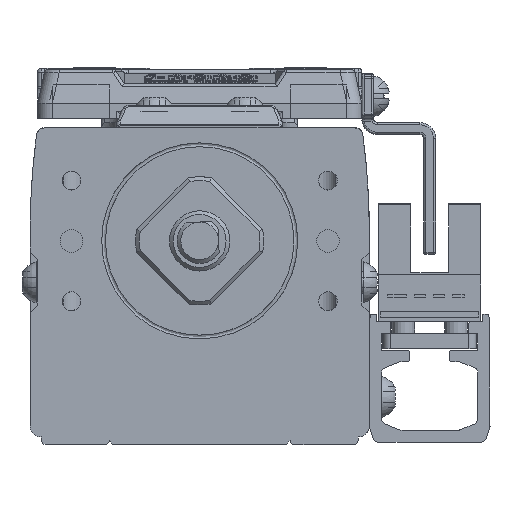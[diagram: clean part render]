
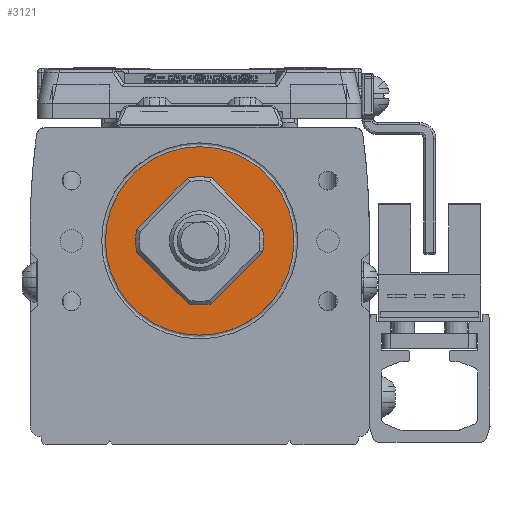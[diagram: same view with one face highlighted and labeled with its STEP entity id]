
A CAD part, left-side view. The second image highlights one B-rep face of the part: STEP entity #3121.
In plain terms, the highlighted planar face has unit normal (-1, 0, 0) as drawn and (0, 0, 1) by its records, which use the part's own axes.
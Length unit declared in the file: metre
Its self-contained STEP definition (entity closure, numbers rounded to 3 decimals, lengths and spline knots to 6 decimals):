
#3121=ADVANCED_FACE('',(#7415,#7416),#7417,.T.);
#7415=FACE_OUTER_BOUND('',#13806,.T.);
#7416=FACE_BOUND('',#13807,.T.);
#7417=PLANE('',#13808);
#13806=EDGE_LOOP('',(#23284));
#13807=EDGE_LOOP('',(#23285));
#13808=AXIS2_PLACEMENT_3D('',#23286,#23287,#23288);
#23284=ORIENTED_EDGE('',*,*,#40155,.T.);
#23285=ORIENTED_EDGE('',*,*,#40156,.F.);
#23286=CARTESIAN_POINT('',(0.000046,-0.005386,0.018));
#23287=DIRECTION('',(0.0,0.0,1.0));
#23288=DIRECTION('',(1.0,0.0,0.0));
#40155=EDGE_CURVE('',#46778,#46778,#46779,.T.);
#40156=EDGE_CURVE('',#46780,#46780,#46781,.T.);
#46778=VERTEX_POINT('',#56473);
#46779=CIRCLE('',#56474,0.0125);
#46780=VERTEX_POINT('',#56475);
#46781=CIRCLE('',#56476,0.004);
#56473=CARTESIAN_POINT('',(-0.0125,0.,0.018));
#56474=AXIS2_PLACEMENT_3D('',#70873,#70874,#70875);
#56475=CARTESIAN_POINT('',(0.004,0.0,0.018));
#56476=AXIS2_PLACEMENT_3D('',#70876,#70877,#70878);
#70873=CARTESIAN_POINT('',(0.0,0.,0.018));
#70874=DIRECTION('',(0.0,0.0,1.0));
#70875=DIRECTION('',(1.0,0.0,0.0));
#70876=CARTESIAN_POINT('',(0.0,0.0,0.018));
#70877=DIRECTION('',(0.0,0.0,1.0));
#70878=DIRECTION('',(-1.0,0.0,0.0));
